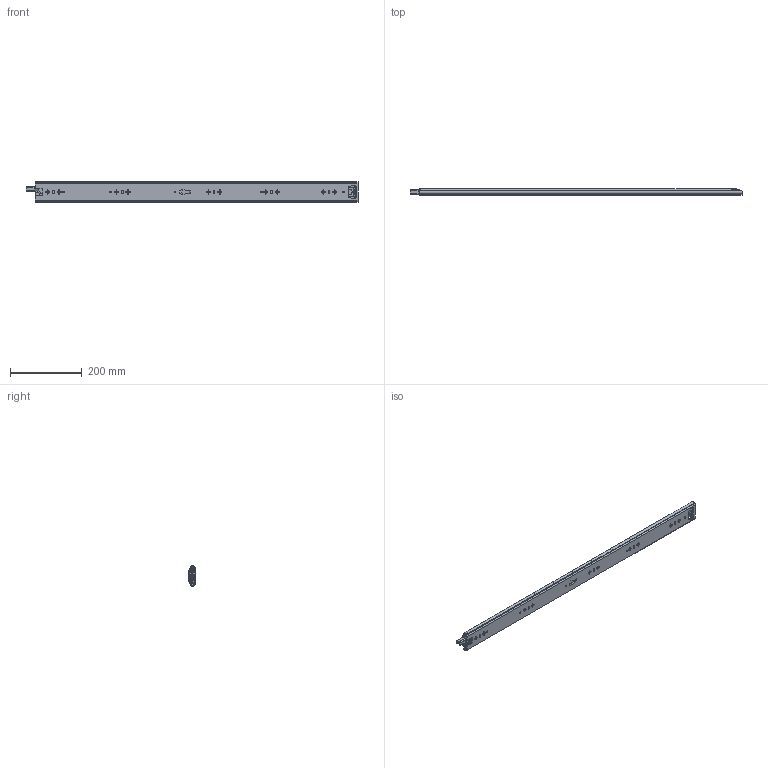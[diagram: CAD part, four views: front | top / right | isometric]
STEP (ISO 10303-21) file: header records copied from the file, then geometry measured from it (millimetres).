
FILE_DESCRIPTION((''),'2;1');
FILE_NAME('KP-57-01ZUZHUANGTU-36YOU_ASM','2023-04-03T',('jishu015'),(''),'PRO/ENGINEER BY PARAMETRIC TECHNOLOGY CORPORATION, 2010280','PRO/ENGINEER BY PARAMETRIC TECHNOLOGY CORPORATION, 2010280','');
FILE_SCHEMA(('CONFIG_CONTROL_DESIGN'));
Products named in the file (21): KP-57-01WEIKE-18_________; 1057WEIJIAO_________; WAIKE________ASM; KP-57-01ZHONGGUI-18_________; ZHONGGUIPEIJIAN-11_______; ZHONGGUISUOKOU-11_______; KP-57-01ZHONGGUI-18__________ASM; 1057XIAOZHUJIA_________; 1057-5-6GANZHU_________; 1057XIAOZHUJIA-14GE__________ASM; KP-57-01NEIGUI-18_________; PJ-57-08_______; DIAOPIAN-11_______; 50XINSUOKOU-1_______; 1053-3SBANJI122_____; JIAO11_____; KP-57-01NEIGUI-18__________ASM; 1053ZHUTIAO-175_____________; 53-5-6GANZHU_____________; 1053ZHUTIAO-175MM________ASM; KP-57-01ZUZHUANGTU-36YOU_ASM
Assembly tree (99 placements, depth 3):
  KP-57-01ZUZHUANGTU-36YOU_ASM
    WAIKE________ASM
      KP-57-01WEIKE-18_________
      1057WEIJIAO_________
    KP-57-01ZHONGGUI-18__________ASM
      KP-57-01ZHONGGUI-18_________
      ZHONGGUIPEIJIAN-11_______
      ZHONGGUISUOKOU-11_______
    1057XIAOZHUJIA-14GE__________ASM
      1057XIAOZHUJIA_________
      1057-5-6GANZHU_________  x64
    KP-57-01NEIGUI-18__________ASM
      KP-57-01NEIGUI-18_________
      PJ-57-08_______
      DIAOPIAN-11_______
      50XINSUOKOU-1_______
      1053-3SBANJI122_____
      JIAO11_____
    1053ZHUTIAO-175MM________ASM  x2
      1053ZHUTIAO-175_____________
      53-5-6GANZHU_____________
Bounding box: 925.42 x 19 x 57.67 mm (x, y, z)
Volume: 394470.4 mm3; surface area: 430399.1 mm2
Topology: 112 solids, 112 shells, 2774 faces, 8042 edges, 5021 vertices
Faces by surface type: cylinder 1203, plane 1119, sphere 203, bspline 123, cone 84, extrusion 23, torus 19
Entity records: 89389 total; most frequent: CARTESIAN_POINT 21941, ORIENTED_EDGE 14300, DIRECTION 13882, EDGE_CURVE 7150, AXIS2_PLACEMENT_3D 4786, VERTEX_POINT 4625, VECTOR 4310, LINE 4287
